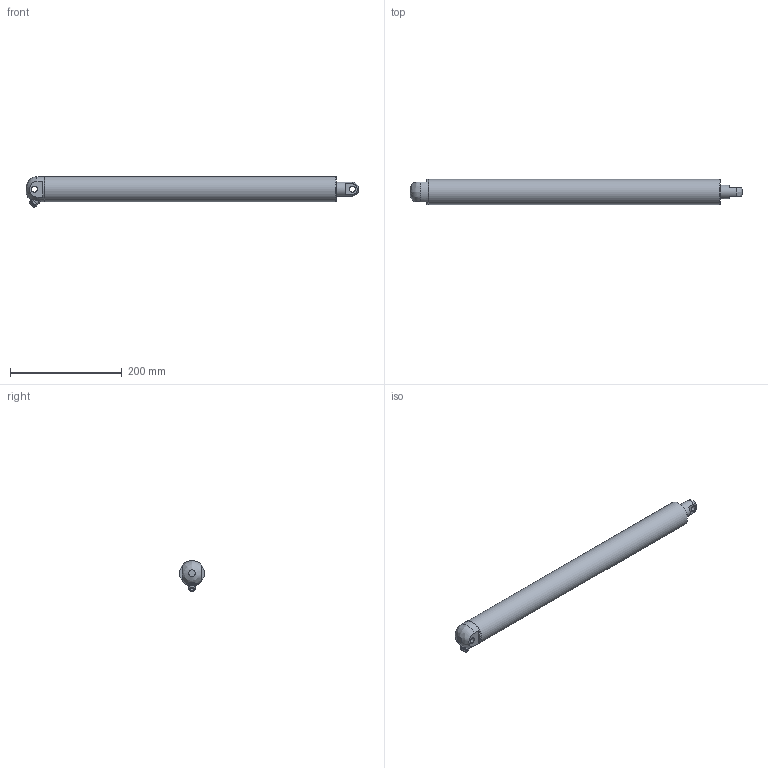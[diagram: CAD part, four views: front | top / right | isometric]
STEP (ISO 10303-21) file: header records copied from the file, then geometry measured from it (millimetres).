
FILE_DESCRIPTION( ( 'Unknown' ), '1' );
FILE_NAME( 'Z:/12¬ãµo³¡/Project/Automation/Linear Actuators/CAD/ELA45/STEP/ELA45300B.stp', 'Unknown', ( 'Unknown' ), ( 'Unknown' ), 'PSStep 10.0', 'Unknown', ' ' );
FILE_SCHEMA( ( 'AUTOMOTIVE_DESIGN { 1 0 10303 214 1 1 1 1 }' ) );
Length unit declared in the file: millimetre
Products named in the file (1): 1
Bounding box: 595 x 45 x 54.84 mm (x, y, z)
Volume: 229491.9 mm3; surface area: 153607.7 mm2
Topology: 1 solids, 2 shells, 64 faces, 157 edges, 102 vertices
Faces by surface type: plane 32, cylinder 22, cone 7, bspline 2, torus 1
Full cylindrical faces by diameter (mm): 6.4 x1, 10.1 x2, 13.8 x2, 25 x1, 40 x1, 45 x2
Entity records: 2566 total; most frequent: CARTESIAN_POINT 604, DIRECTION 312, ORIENTED_EDGE 262, EDGE_CURVE 131, AXIS2_PLACEMENT_3D 125, VERTEX_POINT 95, EDGE_LOOP 92, FACE_OUTER_BOUND 76
